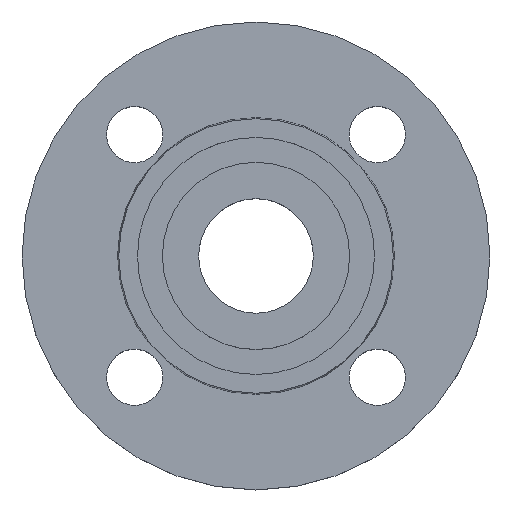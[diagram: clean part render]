
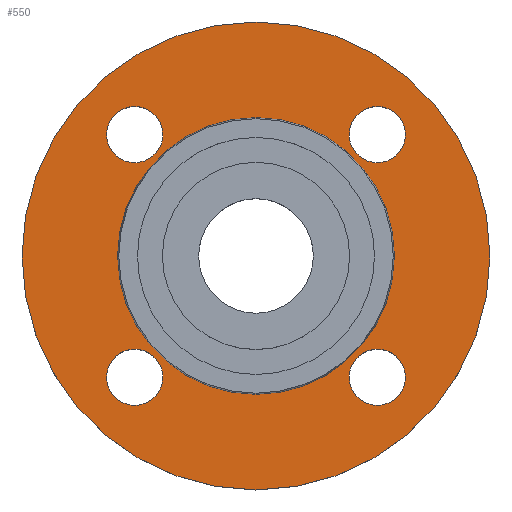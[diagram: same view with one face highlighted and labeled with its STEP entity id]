
A CAD part, top view. The second image highlights one B-rep face of the part: STEP entity #550.
In plain terms, the highlighted planar face has unit normal (0, 0, 1).
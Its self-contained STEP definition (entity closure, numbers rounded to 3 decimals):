
#1 = CARTESIAN_POINT ( 'NONE',  ( 44.353, 0., -2. ) ) ;
#6 = FACE_BOUND ( 'NONE', #676, .T. ) ;
#7 = FACE_BOUND ( 'NONE', #677, .T. ) ;
#20 = CARTESIAN_POINT ( 'NONE',  ( -47.891, 38.891, -2. ) ) ;
#21 = CARTESIAN_POINT ( 'NONE',  ( -44.353, 0., -2. ) ) ;
#29 = CIRCLE ( 'NONE', #48, 75. ) ;
#30 = EDGE_CURVE ( 'NONE', #652, #412, #584, .T. ) ;
#31 = CARTESIAN_POINT ( 'NONE',  ( 38.891, 38.891, -2. ) ) ;
#48 = AXIS2_PLACEMENT_3D ( 'NONE', #376, #381, #378 ) ;
#56 = AXIS2_PLACEMENT_3D ( 'NONE', #91, #89, #87 ) ;
#70 = CARTESIAN_POINT ( 'NONE',  ( 47.891, -38.891, -2. ) ) ;
#71 = DIRECTION ( 'NONE',  ( 1., 0., 0. ) ) ;
#73 = DIRECTION ( 'NONE',  ( 0., 0., 1. ) ) ;
#76 = CARTESIAN_POINT ( 'NONE',  ( 44.353, 0., -2. ) ) ;
#79 = PLANE ( 'NONE',  #452 ) ;
#80 = FACE_OUTER_BOUND ( 'NONE', #701, .T. ) ;
#81 = FACE_BOUND ( 'NONE', #705, .T. ) ;
#84 = FACE_BOUND ( 'NONE', #562, .T. ) ;
#85 = FACE_BOUND ( 'NONE', #724, .T. ) ;
#87 = DIRECTION ( 'NONE',  ( -1., 0., 0. ) ) ;
#89 = DIRECTION ( 'NONE',  ( 0., 0., -1. ) ) ;
#91 = CARTESIAN_POINT ( 'NONE',  ( 0., 0., -2. ) ) ;
#92 = DIRECTION ( 'NONE',  ( 1., 0., 0. ) ) ;
#94 = DIRECTION ( 'NONE',  ( 0., 0., -1. ) ) ;
#113 = CARTESIAN_POINT ( 'NONE',  ( 29.891, -38.891, -2. ) ) ;
#114 = CARTESIAN_POINT ( 'NONE',  ( -29.891, 38.891, -2. ) ) ;
#120 = EDGE_CURVE ( 'NONE', #669, #735, #433, .T. ) ;
#124 = DIRECTION ( 'NONE',  ( 0., 0., -1. ) ) ;
#141 = EDGE_CURVE ( 'NONE', #663, #728, #398, .T. ) ;
#153 = AXIS2_PLACEMENT_3D ( 'NONE', #770, #94, #92 ) ;
#156 = DIRECTION ( 'NONE',  ( 1., 0., 0. ) ) ;
#158 = CARTESIAN_POINT ( 'NONE',  ( -38.891, -38.891, -2. ) ) ;
#185 = CARTESIAN_POINT ( 'NONE',  ( 29.891, 38.891, -2. ) ) ;
#186 = CIRCLE ( 'NONE', #153, 9. ) ;
#200 = EDGE_CURVE ( 'NONE', #662, #654, #216, .T. ) ;
#216 = CIRCLE ( 'NONE', #787, 44.353 ) ;
#218 = CARTESIAN_POINT ( 'NONE',  ( 75., 0., -2. ) ) ;
#220 = CIRCLE ( 'NONE', #604, 9. ) ;
#228 = AXIS2_PLACEMENT_3D ( 'NONE', #703, #124, #292 ) ;
#231 = DIRECTION ( 'NONE',  ( 0., 0., -1. ) ) ;
#248 = DIRECTION ( 'NONE',  ( 0., 0., -1. ) ) ;
#275 = CIRCLE ( 'NONE', #304, 9. ) ;
#279 = EDGE_CURVE ( 'NONE', #412, #652, #603, .T. ) ;
#292 = DIRECTION ( 'NONE',  ( 1., 0., 0. ) ) ;
#295 = CARTESIAN_POINT ( 'NONE',  ( -38.891, 38.891, -2. ) ) ;
#296 = DIRECTION ( 'NONE',  ( 0., 0., -1. ) ) ;
#297 = DIRECTION ( 'NONE',  ( 1., 0., 0. ) ) ;
#304 = AXIS2_PLACEMENT_3D ( 'NONE', #31, #248, #530 ) ;
#373 = DIRECTION ( 'NONE',  ( 0., 0., -1. ) ) ;
#376 = CARTESIAN_POINT ( 'NONE',  ( 0., 0., -2. ) ) ;
#378 = DIRECTION ( 'NONE',  ( -1., 0., 0. ) ) ;
#381 = DIRECTION ( 'NONE',  ( 0., 0., -1. ) ) ;
#384 = EDGE_CURVE ( 'NONE', #728, #663, #29, .T. ) ;
#397 = AXIS2_PLACEMENT_3D ( 'NONE', #805, #807, #808 ) ;
#398 = CIRCLE ( 'NONE', #397, 75. ) ;
#404 = AXIS2_PLACEMENT_3D ( 'NONE', #797, #798, #799 ) ;
#412 = VERTEX_POINT ( 'NONE', #114 ) ;
#416 = VERTEX_POINT ( 'NONE', #113 ) ;
#430 = CIRCLE ( 'NONE', #880, 9. ) ;
#431 = CARTESIAN_POINT ( 'NONE',  ( 47.891, 38.891, -2. ) ) ;
#433 = CIRCLE ( 'NONE', #404, 9. ) ;
#439 = DIRECTION ( 'NONE',  ( 1., 0., 0. ) ) ;
#452 = AXIS2_PLACEMENT_3D ( 'NONE', #76, #73, #71 ) ;
#504 = EDGE_CURVE ( 'NONE', #735, #669, #430, .T. ) ;
#515 = ORIENTED_EDGE ( 'NONE', *, *, #809, .T. ) ;
#516 = ORIENTED_EDGE ( 'NONE', *, *, #537, .T. ) ;
#517 = ORIENTED_EDGE ( 'NONE', *, *, #30, .T. ) ;
#519 = ORIENTED_EDGE ( 'NONE', *, *, #806, .T. ) ;
#520 = ORIENTED_EDGE ( 'NONE', *, *, #830, .T. ) ;
#521 = ORIENTED_EDGE ( 'NONE', *, *, #539, .T. ) ;
#526 = ORIENTED_EDGE ( 'NONE', *, *, #504, .T. ) ;
#528 = ORIENTED_EDGE ( 'NONE', *, *, #120, .T. ) ;
#529 = ORIENTED_EDGE ( 'NONE', *, *, #279, .T. ) ;
#530 = DIRECTION ( 'NONE',  ( 1., 0., 0. ) ) ;
#532 = ORIENTED_EDGE ( 'NONE', *, *, #384, .F. ) ;
#534 = ORIENTED_EDGE ( 'NONE', *, *, #141, .F. ) ;
#536 = ORIENTED_EDGE ( 'NONE', *, *, #200, .T. ) ;
#537 = EDGE_CURVE ( 'NONE', #416, #568, #186, .T. ) ;
#539 = EDGE_CURVE ( 'NONE', #654, #662, #673, .T. ) ;
#550 = ADVANCED_FACE ( 'NONE', ( #7, #6, #85, #84, #81, #80 ), #79, .T. ) ;
#562 = EDGE_LOOP ( 'NONE', ( #519, #520 ) ) ;
#568 = VERTEX_POINT ( 'NONE', #70 ) ;
#578 = CARTESIAN_POINT ( 'NONE',  ( -47.891, -38.891, -2. ) ) ;
#579 = AXIS2_PLACEMENT_3D ( 'NONE', #745, #746, #747 ) ;
#583 = AXIS2_PLACEMENT_3D ( 'NONE', #295, #296, #297 ) ;
#584 = CIRCLE ( 'NONE', #579, 9. ) ;
#603 = CIRCLE ( 'NONE', #583, 9. ) ;
#604 = AXIS2_PLACEMENT_3D ( 'NONE', #853, #231, #439 ) ;
#634 = CIRCLE ( 'NONE', #228, 9. ) ;
#652 = VERTEX_POINT ( 'NONE', #20 ) ;
#654 = VERTEX_POINT ( 'NONE', #21 ) ;
#662 = VERTEX_POINT ( 'NONE', #1 ) ;
#663 = VERTEX_POINT ( 'NONE', #218 ) ;
#669 = VERTEX_POINT ( 'NONE', #578 ) ;
#673 = CIRCLE ( 'NONE', #56, 44.353 ) ;
#676 = EDGE_LOOP ( 'NONE', ( #526, #528 ) ) ;
#677 = EDGE_LOOP ( 'NONE', ( #515, #516 ) ) ;
#679 = CARTESIAN_POINT ( 'NONE',  ( -75., 0., -2. ) ) ;
#701 = EDGE_LOOP ( 'NONE', ( #534, #532 ) ) ;
#703 = CARTESIAN_POINT ( 'NONE',  ( 38.891, 38.891, -2. ) ) ;
#705 = EDGE_LOOP ( 'NONE', ( #521, #536 ) ) ;
#724 = EDGE_LOOP ( 'NONE', ( #529, #517 ) ) ;
#728 = VERTEX_POINT ( 'NONE', #679 ) ;
#734 = VERTEX_POINT ( 'NONE', #431 ) ;
#735 = VERTEX_POINT ( 'NONE', #772 ) ;
#736 = VERTEX_POINT ( 'NONE', #185 ) ;
#745 = CARTESIAN_POINT ( 'NONE',  ( -38.891, 38.891, -2. ) ) ;
#746 = DIRECTION ( 'NONE',  ( 0., 0., -1. ) ) ;
#747 = DIRECTION ( 'NONE',  ( 1., 0., 0. ) ) ;
#770 = CARTESIAN_POINT ( 'NONE',  ( 38.891, -38.891, -2. ) ) ;
#772 = CARTESIAN_POINT ( 'NONE',  ( -29.891, -38.891, -2. ) ) ;
#787 = AXIS2_PLACEMENT_3D ( 'NONE', #833, #834, #835 ) ;
#797 = CARTESIAN_POINT ( 'NONE',  ( -38.891, -38.891, -2. ) ) ;
#798 = DIRECTION ( 'NONE',  ( 0., 0., -1. ) ) ;
#799 = DIRECTION ( 'NONE',  ( 1., 0., 0. ) ) ;
#805 = CARTESIAN_POINT ( 'NONE',  ( 0., 0., -2. ) ) ;
#806 = EDGE_CURVE ( 'NONE', #734, #736, #275, .T. ) ;
#807 = DIRECTION ( 'NONE',  ( 0., 0., -1. ) ) ;
#808 = DIRECTION ( 'NONE',  ( -1., 0., 0. ) ) ;
#809 = EDGE_CURVE ( 'NONE', #568, #416, #220, .T. ) ;
#830 = EDGE_CURVE ( 'NONE', #736, #734, #634, .T. ) ;
#833 = CARTESIAN_POINT ( 'NONE',  ( 0., 0., -2. ) ) ;
#834 = DIRECTION ( 'NONE',  ( 0., 0., -1. ) ) ;
#835 = DIRECTION ( 'NONE',  ( -1., 0., 0. ) ) ;
#853 = CARTESIAN_POINT ( 'NONE',  ( 38.891, -38.891, -2. ) ) ;
#880 = AXIS2_PLACEMENT_3D ( 'NONE', #158, #373, #156 ) ;
